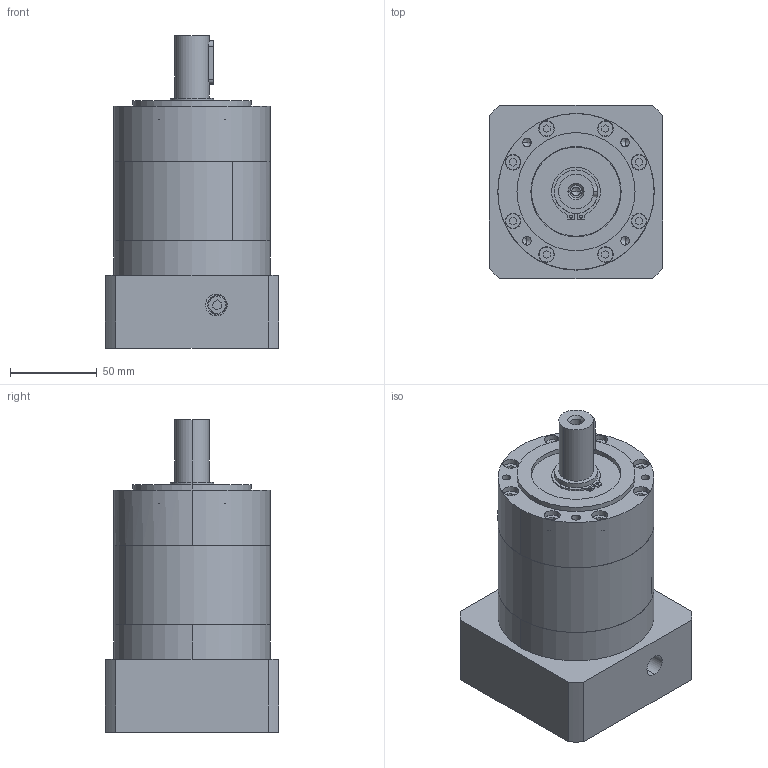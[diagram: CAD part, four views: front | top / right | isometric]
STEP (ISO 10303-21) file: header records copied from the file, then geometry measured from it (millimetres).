
FILE_DESCRIPTION (( 'STEP AP203' ), '1' );
FILE_NAME ('PLE090-L2-19-95-115.STEP', '2022-07-04T08:18:39', ( 'Windows User' ), ( 'P R C' ), 'SwSTEP 2.0', 'SolidWorks 2016', '' );
FILE_SCHEMA (( 'CONFIG_CONTROL_DESIGN' ));
Length unit declared in the file: millimetre
Products named in the file (8): PLE090內齿圈-优化_二级内齿圈; PLE090狟屳唳; 囀鞠褒蹟佪 M6x20; 邧埴瑩 6x6x25; 粣創-6007 35x62x14; PLE090 蟀諉啣-95-M8-115-100遺; PLE090-L2-19-95-115; PLE090奻屳唳
Assembly tree (7 placements, depth 2):
  PLE090-L2-19-95-115
    PLE090內齿圈-优化_二级内齿圈
    PLE090狟屳唳
    囀鞠褒蹟佪 M6x20
    邧埴瑩 6x6x25
    粣創-6007 35x62x14
    PLE090 蟀諉啣-95-M8-115-100遺
    PLE090奻屳唳
Bounding box: 100 x 100 x 180 mm (x, y, z)
Volume: 891972.4 mm3; surface area: 159595.7 mm2
Topology: 7 solids, 7 shells, 1081 faces, 2911 edges, 1922 vertices
Faces by surface type: plane 580, cylinder 194, bspline 147, sphere 88, torus 50, cone 22
Entity records: 43345 total; most frequent: CARTESIAN_POINT 16350, ORIENTED_EDGE 5786, DIRECTION 4884, EDGE_CURVE 2893, VERTEX_POINT 1922, AXIS2_PLACEMENT_3D 1704, VECTOR 1476, LINE 1476
